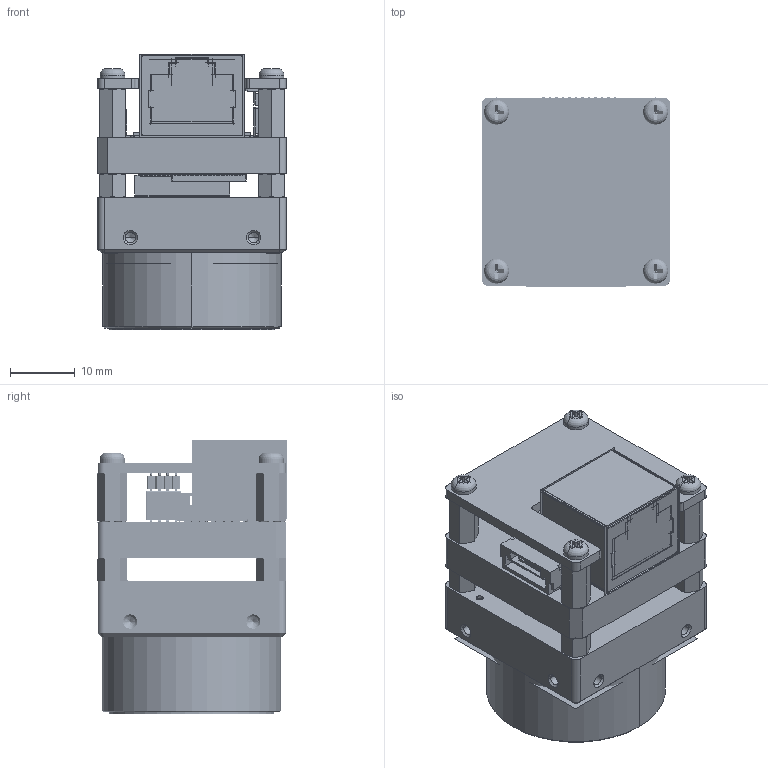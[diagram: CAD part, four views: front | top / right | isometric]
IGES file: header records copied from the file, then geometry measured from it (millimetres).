
Start section:  PTC IGES file: 11.igs
Global section: file name: 11.igs; native system: Creo Parametric by PTC Inc.; preprocessor: 2017260; author: fangguihua; organization: Unknown; date: 20201105.162943; units: millimetre
Bounding box: 29 x 29.21 x 42.46 mm (x, y, z)
Volume: 14171.5 mm3; surface area: 27580.3 mm2
Topology: 1 solids, 59 shells, 6316 faces, 23746 edges, 22238 vertices
Faces by surface type: bspline 4123, revolution 2193
